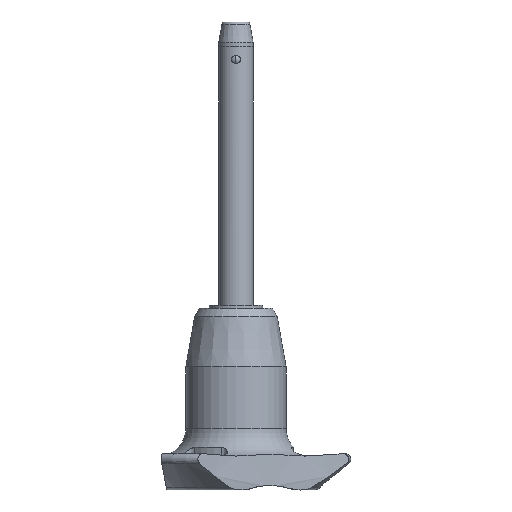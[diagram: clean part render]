
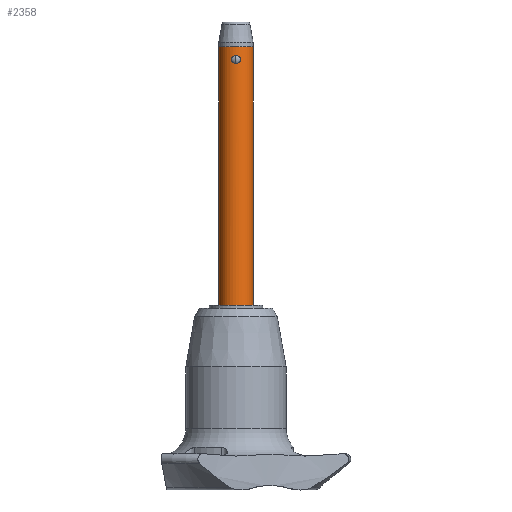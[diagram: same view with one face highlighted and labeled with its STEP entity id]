
A CAD part, front view. The second image highlights one B-rep face of the part: STEP entity #2358.
In plain terms, the highlighted cylindrical face has radius 2.5 mm (diameter 5 mm), a partial arc.
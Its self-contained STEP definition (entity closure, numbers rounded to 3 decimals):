
#10 = CARTESIAN_POINT ( 'NONE',  ( -0.561, -2.436, 0.889 ) ) ;
#84 = CARTESIAN_POINT ( 'NONE',  ( -2.5, 0., -35. ) ) ;
#98 = EDGE_CURVE ( 'NONE', #680, #2056, #335, .T. ) ;
#141 = DIRECTION ( 'NONE',  ( 1., 0., 0. ) ) ;
#148 = EDGE_CURVE ( 'NONE', #694, #1027, #632, .T. ) ;
#164 = EDGE_LOOP ( 'NONE', ( #2545, #806 ) ) ;
#170 = CARTESIAN_POINT ( 'NONE',  ( 0., -2.5, 0. ) ) ;
#182 = CARTESIAN_POINT ( 'NONE',  ( 0., -2.5, 1.162 ) ) ;
#187 = CARTESIAN_POINT ( 'NONE',  ( -0.324, -2.482, 1.108 ) ) ;
#286 = DIRECTION ( 'NONE',  ( 0., 0., 1. ) ) ;
#335 = LINE ( 'NONE', #1200, #1553 ) ;
#348 = CYLINDRICAL_SURFACE ( 'NONE', #520, 2.5 ) ;
#358 = DIRECTION ( 'NONE',  ( 0., 0., -1. ) ) ;
#362 = CARTESIAN_POINT ( 'NONE',  ( 0., 0., 2.4 ) ) ;
#375 = CARTESIAN_POINT ( 'NONE',  ( 0.164, -2.5, 1.162 ) ) ;
#393 = CARTESIAN_POINT ( 'NONE',  ( 0.162, -2.5, 0. ) ) ;
#400 = CARTESIAN_POINT ( 'NONE',  ( -0.511, -2.448, 0.21 ) ) ;
#505 = EDGE_CURVE ( 'NONE', #1027, #694, #727, .T. ) ;
#510 = FACE_OUTER_BOUND ( 'NONE', #1158, .T. ) ;
#520 = AXIS2_PLACEMENT_3D ( 'NONE', #968, #955, #1811 ) ;
#579 = VERTEX_POINT ( 'NONE', #2405 ) ;
#583 = CARTESIAN_POINT ( 'NONE',  ( 0.632, -2.419, 0.416 ) ) ;
#614 = CARTESIAN_POINT ( 'NONE',  ( 0.327, -2.482, 1.107 ) ) ;
#632 = B_SPLINE_CURVE_WITH_KNOTS ( 'NONE', 3,
 ( #170, #393, #1883, #1037, #2515, #583, #2525, #2106, #1448, #824, #1895, #614, #375, #182 ),
 .UNSPECIFIED., .F., .F.,
 ( 4, 2, 2, 2, 2, 2, 4 ),
 ( 0.002, 0.002, 0.003, 0.003, 0.003, 0.003, 0.004 ),
 .UNSPECIFIED. ) ;
#680 = VERTEX_POINT ( 'NONE', #84 ) ;
#694 = VERTEX_POINT ( 'NONE', #1802 ) ;
#727 = B_SPLINE_CURVE_WITH_KNOTS ( 'NONE', 3,
 ( #2555, #2152, #187, #1070, #10, #846, #2364, #828, #2546, #2738, #400, #2568, #817, #2529 ),
 .UNSPECIFIED., .F., .F.,
 ( 4, 2, 2, 2, 2, 2, 4 ),
 ( 0., 0., 0.001, 0.001, 0.001, 0.001, 0.002 ),
 .UNSPECIFIED. ) ;
#777 = DIRECTION ( 'NONE',  ( 0., 0., 1. ) ) ;
#794 = CIRCLE ( 'NONE', #1604, 2.5 ) ;
#806 = ORIENTED_EDGE ( 'NONE', *, *, #148, .F. ) ;
#817 = CARTESIAN_POINT ( 'NONE',  ( -0.162, -2.5, 0. ) ) ;
#824 = CARTESIAN_POINT ( 'NONE',  ( 0.562, -2.436, 0.887 ) ) ;
#828 = CARTESIAN_POINT ( 'NONE',  ( -0.652, -2.413, 0.501 ) ) ;
#846 = CARTESIAN_POINT ( 'NONE',  ( -0.632, -2.419, 0.744 ) ) ;
#914 = ORIENTED_EDGE ( 'NONE', *, *, #1198, .T. ) ;
#955 = DIRECTION ( 'NONE',  ( 0., 0., 1. ) ) ;
#966 = CARTESIAN_POINT ( 'NONE',  ( 2.5, 0., -35. ) ) ;
#968 = CARTESIAN_POINT ( 'NONE',  ( 0., 0., -35. ) ) ;
#1027 = VERTEX_POINT ( 'NONE', #2196 ) ;
#1037 = CARTESIAN_POINT ( 'NONE',  ( 0.509, -2.448, 0.208 ) ) ;
#1070 = CARTESIAN_POINT ( 'NONE',  ( -0.51, -2.448, 0.953 ) ) ;
#1076 = CARTESIAN_POINT ( 'NONE',  ( -2.5, 0., 2.4 ) ) ;
#1097 = VERTEX_POINT ( 'NONE', #1762 ) ;
#1158 = EDGE_LOOP ( 'NONE', ( #1351, #2622, #914, #1203 ) ) ;
#1198 = EDGE_CURVE ( 'NONE', #1097, #579, #2678, .T. ) ;
#1200 = CARTESIAN_POINT ( 'NONE',  ( -2.5, 0., -35. ) ) ;
#1203 = ORIENTED_EDGE ( 'NONE', *, *, #2417, .F. ) ;
#1351 = ORIENTED_EDGE ( 'NONE', *, *, #98, .F. ) ;
#1374 = AXIS2_PLACEMENT_3D ( 'NONE', #2261, #358, #141 ) ;
#1448 = CARTESIAN_POINT ( 'NONE',  ( 0.633, -2.419, 0.742 ) ) ;
#1462 = CIRCLE ( 'NONE', #1374, 2.5 ) ;
#1553 = VECTOR ( 'NONE', #777, 1000. ) ;
#1604 = AXIS2_PLACEMENT_3D ( 'NONE', #362, #1793, #1998 ) ;
#1762 = CARTESIAN_POINT ( 'NONE',  ( 2.5, 0., -35. ) ) ;
#1793 = DIRECTION ( 'NONE',  ( 0., 0., 1. ) ) ;
#1802 = CARTESIAN_POINT ( 'NONE',  ( 0., -2.5, 0. ) ) ;
#1811 = DIRECTION ( 'NONE',  ( 1., 0., 0. ) ) ;
#1883 = CARTESIAN_POINT ( 'NONE',  ( 0.326, -2.482, 0.055 ) ) ;
#1895 = CARTESIAN_POINT ( 'NONE',  ( 0.511, -2.448, 0.952 ) ) ;
#1917 = EDGE_CURVE ( 'NONE', #1097, #680, #1462, .T. ) ;
#1998 = DIRECTION ( 'NONE',  ( 1., 0., 0. ) ) ;
#2056 = VERTEX_POINT ( 'NONE', #1076 ) ;
#2106 = CARTESIAN_POINT ( 'NONE',  ( 0.652, -2.413, 0.66 ) ) ;
#2152 = CARTESIAN_POINT ( 'NONE',  ( -0.164, -2.5, 1.162 ) ) ;
#2196 = CARTESIAN_POINT ( 'NONE',  ( 0., -2.5, 1.162 ) ) ;
#2261 = CARTESIAN_POINT ( 'NONE',  ( 0., 0., -35. ) ) ;
#2270 = FACE_BOUND ( 'NONE', #164, .T. ) ;
#2358 = ADVANCED_FACE ( 'NONE', ( #510, #2270 ), #348, .T. ) ;
#2364 = CARTESIAN_POINT ( 'NONE',  ( -0.652, -2.414, 0.663 ) ) ;
#2405 = CARTESIAN_POINT ( 'NONE',  ( 2.5, 0., 2.4 ) ) ;
#2417 = EDGE_CURVE ( 'NONE', #2056, #579, #794, .T. ) ;
#2500 = VECTOR ( 'NONE', #286, 1000. ) ;
#2515 = CARTESIAN_POINT ( 'NONE',  ( 0.561, -2.437, 0.273 ) ) ;
#2525 = CARTESIAN_POINT ( 'NONE',  ( 0.652, -2.414, 0.497 ) ) ;
#2529 = CARTESIAN_POINT ( 'NONE',  ( 0., -2.5, 0. ) ) ;
#2545 = ORIENTED_EDGE ( 'NONE', *, *, #505, .F. ) ;
#2546 = CARTESIAN_POINT ( 'NONE',  ( -0.633, -2.419, 0.42 ) ) ;
#2555 = CARTESIAN_POINT ( 'NONE',  ( 0., -2.5, 1.162 ) ) ;
#2568 = CARTESIAN_POINT ( 'NONE',  ( -0.326, -2.482, 0.054 ) ) ;
#2622 = ORIENTED_EDGE ( 'NONE', *, *, #1917, .F. ) ;
#2678 = LINE ( 'NONE', #966, #2500 ) ;
#2738 = CARTESIAN_POINT ( 'NONE',  ( -0.562, -2.436, 0.274 ) ) ;
